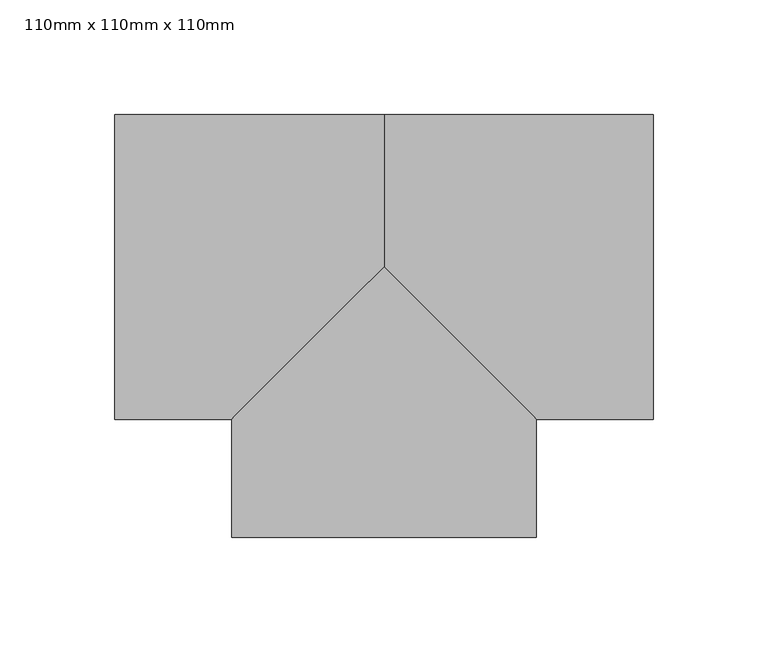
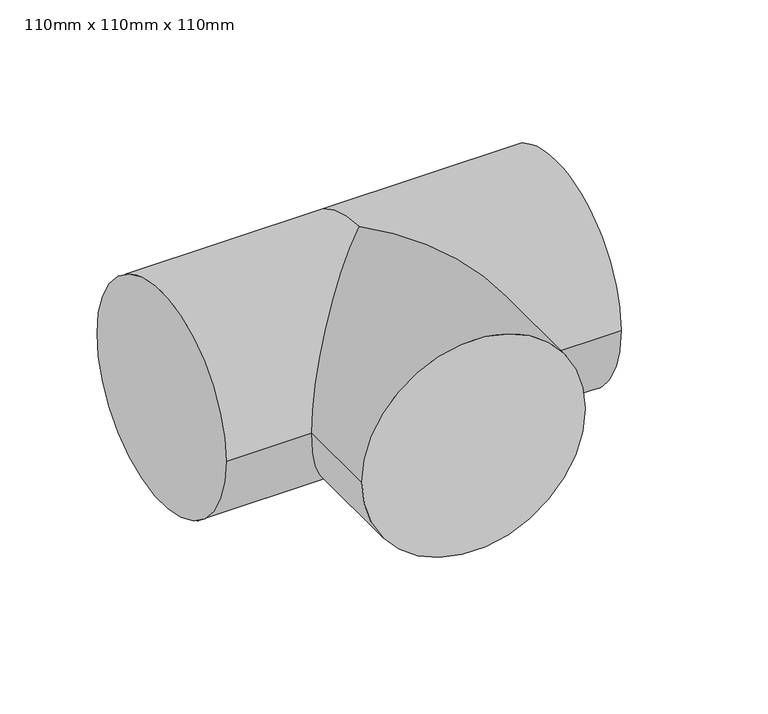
"""IFC4 building model written with IfcOpenShell, lengths in millimetres: pipe fitting geometry, PipeFitting_HTA_CPVC_Tees90° : 110mm x 110mm x 110mm."""

from ifc_helpers import new_model, si_unit, frame, origin, place, context, project, spatial, circle_curve, ellipse_curve, source, transform, mapped, element, save
from ifc_brep_helpers import plane_surface, cylinder_surface, advanced_brep


def pipe_fitting_110mm_x_110mm_x_110mm_6b15d034(model_context):
    return source(origin(), model_context, "Body", "AdvancedBrep", [
        advanced_brep(
        [(-66.5, -118.0, 0.0), (66.5, -118.0, 0.0), (66.5, -66.5, 0.0), (0.0, 0.0, 66.5), (-66.5, -66.5, 0.0), (0.0, 0.0, -66.5), (-117.5, -66.5, 0.0), (-117.5, 66.5, 0.0), (0.0, 66.5, 0.0), (117.5, -66.5, 0.0), (117.5, 66.5, 0.0)],
        [
            (0, 1, circle_curve(frame((0.0, -118.0, 0.0), z_axis=(0.0, -1.0, 0.0), x_axis=(1.0, 0.0, 0.0)), 66.5)),
            (1, 0, circle_curve(frame((0.0, -118.0, 0.0), z_axis=(0.0, -1.0, 0.0), x_axis=(1.0, 0.0, 0.0)), 66.5)),
            (1, 2),
            (2, 3, ellipse_curve(frame((0.0, 0.0, 0.0), z_axis=(-0.7071067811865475, -0.7071067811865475, 0.0), x_axis=(-0.7071067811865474, 0.7071067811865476, 0.0)), 94.0452019, 66.5)),
            (3, 4, ellipse_curve(frame((0.0, 0.0, 0.0), z_axis=(0.7071067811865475, -0.7071067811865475, 0.0), x_axis=(0.7071067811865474, 0.7071067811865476, 0.0)), 94.0452019, 66.5)),
            (4, 0),
            (4, 5, ellipse_curve(frame((0.0, 0.0, 0.0), z_axis=(0.7071067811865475, -0.7071067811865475, 0.0), x_axis=(0.7071067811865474, 0.7071067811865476, 0.0)), 94.0452019, 66.5)),
            (5, 2, ellipse_curve(frame((0.0, 0.0, 0.0), z_axis=(-0.7071067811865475, -0.7071067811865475, 0.0), x_axis=(-0.7071067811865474, 0.7071067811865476, 0.0)), 94.0452019, 66.5)),
            (6, 7, circle_curve(frame((-117.5, 0.0, 0.0), z_axis=(-1.0, 0.0, 0.0), x_axis=(0.0, 1.0, 0.0)), 66.5)),
            (7, 6, circle_curve(frame((-117.5, 0.0, 0.0), z_axis=(-1.0, 0.0, 0.0), x_axis=(0.0, 1.0, 0.0)), 66.5)),
            (6, 4),
            (3, 8, circle_curve(frame((0.0, 0.0, 0.0), z_axis=(-1.0, 0.0, 0.0), x_axis=(0.0, 1.0, 0.0)), 66.5)),
            (8, 7),
            (8, 5, circle_curve(frame((0.0, 0.0, 0.0), z_axis=(-1.0, 0.0, 0.0), x_axis=(0.0, 1.0, 0.0)), 66.5)),
            (9, 10, circle_curve(frame((117.5, 0.0, 0.0), z_axis=(1.0, 0.0, 0.0), x_axis=(0.0, 1.0, 0.0)), 66.5)),
            (10, 9, circle_curve(frame((117.5, 0.0, 0.0), z_axis=(1.0, 0.0, 0.0), x_axis=(0.0, 1.0, 0.0)), 66.5)),
            (10, 8),
            (2, 9),
        ],
        [
            plane_surface(frame((0.0, -118.0, 0.0), z_axis=(0.0, -1.0, 0.0), x_axis=(0.0, 0.0, 1.0))),
            cylinder_surface(frame((0.0, 0.0, 0.0), z_axis=(0.0, 1.0, 0.0), x_axis=(1.0, 0.0, 0.0)), 66.5),
            plane_surface(frame((-117.5, 0.0, 0.0), z_axis=(-1.0, 0.0, 0.0), x_axis=(0.0, 0.0, 1.0))),
            cylinder_surface(frame((-117.5, 0.0, 0.0), z_axis=(-1.0, 0.0, 0.0), x_axis=(0.0, 1.0, 0.0)), 66.5),
            plane_surface(frame((117.5, 0.0, 0.0), z_axis=(1.0, 0.0, 0.0), x_axis=(0.0, 0.0, 1.0))),
            cylinder_surface(frame((0.0, 0.0, 0.0), z_axis=(-1.0, 0.0, 0.0), x_axis=(0.0, 1.0, 0.0)), 66.5),
        ],
        [
            (0, [[1, 2]]),
            (1, [[-2, 3, 4, 5, 6]]),
            (1, [[-1, -6, 7, 8, -3]]),
            (2, [[9, 10]]),
            (3, [[-9, 11, -5, 12, 13]]),
            (3, [[-10, -13, 14, -7, -11]]),
            (4, [[15, 16]]),
            (5, [[-16, 17, -12, -4, 18]]),
            (5, [[-15, -18, -8, -14, -17]]),
        ],
    ),
    ])


if __name__ == "__main__":
    model = new_model("IFC4")
    model_context = context("Model", 3, world=origin())
    ifc_project = project(units=[si_unit("LENGTHUNIT", "METRE", prefix="MILLI")], contexts=[model_context])
    site = spatial("IfcSite", under=ifc_project)
    building = spatial("IfcBuilding", under=site)
    placement = place(None, origin())
    pipe_fitting_110mm_x_110mm_x_110mm_shape = pipe_fitting_110mm_x_110mm_x_110mm_6b15d034(model_context)
    element("IfcPipeFitting", 1, ObjectType="PipeFitting_HTA_CPVC_Tees90° : 110mm x 110mm x 110mm", at=placement, inside=building, context=model_context, shape_type="MappedRepresentation", body=[
        mapped(pipe_fitting_110mm_x_110mm_x_110mm_shape, transform((0.0, 0.0, 0.0), x_axis=(1.0, 0.0, 0.0), y_axis=(0.0, 1.0, 0.0), z_axis=(0.0, 0.0, 1.0))),
    ])
    save(model, "model.ifc")
